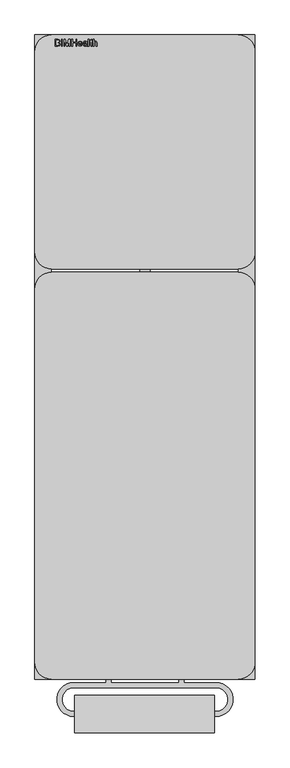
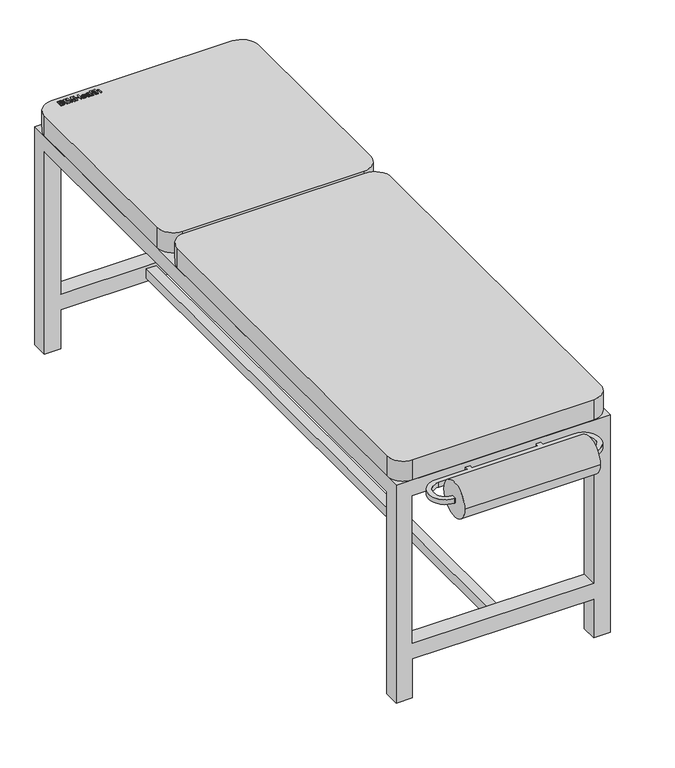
"""IFC4 building model written with IfcOpenShell, lengths in millimetres: furniture geometry, BIMHealth-Couch_Examination_Paper_Towel-LOD2A-v1 : BIMHealth-Couch_Examination_Paper_Towel-LOD2A-v1."""

from ifc_helpers import new_model, si_unit, point, frame, frame_2d, origin, place, context, project, spatial, polyline, circle_curve, trimmed, segment, composite_curve, outline, extrude, faceted_brep, source, transform, mapped, element, save


def furniture_7312193e(model_context):
    return source(origin(), model_context, "Body", "SolidModel", [
        extrude(outline(composite_curve([segment(trimmed(circle_curve(frame_2d((-2002.5, 677.0351989)), 55.0), [point((-2057.5, 677.0351989))], [point((-1947.5, 677.0351989))], False, "CARTESIAN"), True, "CONTINUOUS"), segment(trimmed(circle_curve(frame_2d((-2002.5, 677.0351989)), 55.0), [point((-1947.5, 677.0351989))], [point((-2057.5, 677.0351989))], False, "CARTESIAN"), True, "CONTINUOUS")], self_intersect=False)), frame((117.8018428, 0.0, 0.0), z_axis=(1.0, 0.0, 0.0), x_axis=(0.0, 1.0, 0.0)), (0.0, 0.0, 1.0), 411.6753536),
        extrude(outline(composite_curve([segment(polyline([(185.0, -2010.0), (115.0, -2010.0)]), True, "CONTINUOUS"), segment(trimmed(circle_curve(frame_2d((115.0, -1960.0)), 50.0), [point((115.0, -2010.0))], [point((115.0, -1910.0))], False, "CARTESIAN"), True, "CONTINUOUS"), segment(polyline([(115.0, -1910.0), (210.0, -1910.0), (210.0, -1900.0), (225.0, -1900.0), (225.0, -1910.0), (425.0, -1910.0), (425.0, -1900.0), (440.0, -1900.0), (440.0, -1910.0), (535.0, -1910.0)]), True, "CONTINUOUS"), segment(trimmed(circle_curve(frame_2d((535.0, -1960.0)), 50.0), [point((535.0, -1910.0))], [point((535.0, -2010.0))], False, "CARTESIAN"), True, "CONTINUOUS"), segment(polyline([(535.0, -2010.0), (465.0, -2010.0), (465.0, -1995.0), (535.0, -1995.0)]), True, "CONTINUOUS"), segment(trimmed(circle_curve(frame_2d((535.0, -1960.0)), 35.0), [point((535.0, -1995.0))], [point((535.0, -1925.0))], True, "CARTESIAN"), True, "CONTINUOUS"), segment(polyline([(535.0, -1925.0), (115.0, -1925.0)]), True, "CONTINUOUS"), segment(trimmed(circle_curve(frame_2d((115.0, -1960.0)), 35.0), [point((115.0, -1925.0))], [point((115.0, -1995.0))], True, "CARTESIAN"), True, "CONTINUOUS"), segment(polyline([(115.0, -1995.0), (185.0, -1995.0), (185.0, -2010.0)]), True, "CONTINUOUS")], self_intersect=False)), frame((0.0, 0.0, 669.5318641), z_axis=(0.0, 0.0, 1.0), x_axis=(1.0, 0.0, 0.0)), (0.0, 0.0, 1.0), 15.0066695),
        extrude(outline(polyline([(60.0220189, -32.8869719), (60.0220189, -13.1946642), (67.536442, -13.1946642), (71.2167304, -13.7739911), (73.3898073, -15.5552411), (74.175865, -18.0744719), (73.5148073, -20.3749527), (71.5172112, -22.1177411), (73.942692, -23.9542796), (74.7912496, -27.0167796), (74.2119227, -29.6634142), (72.7768266, -31.5480296), (70.6349996, -32.5480296), (67.4787496, -32.8869719), (60.0220189, -32.8869719)]), holes=[polyline([(62.4835573, -21.1946642), (66.9787496, -21.1946642), (69.6037496, -20.9831257), (71.1830766, -20.0720681), (71.7143266, -18.4687027), (71.2191343, -16.8629334), (69.800865, -15.9134142), (66.6374035, -15.6562027), (62.4835573, -15.6562027), (62.4835573, -21.1946642)]), polyline([(62.4835573, -30.4254334), (67.5316343, -30.4254334), (69.3585573, -30.3292796), (70.9042304, -29.7932219), (72.3297112, -27.0408181), (71.8585573, -25.1273565), (70.332115, -23.9855296), (67.2912496, -23.6562027), (62.4835573, -23.6562027), (62.4835573, -30.4254334)])]), frame((0.0, 0.0, 765.0), z_axis=(0.0, 0.0, 1.0), x_axis=(1.0, 0.0, 0.0)), (0.0, 0.0, 1.0), 2.0),
        extrude(outline(polyline([(78.4835573, -32.8869719), (78.4835573, -13.1946642), (80.9450958, -13.1946642), (80.9450958, -32.8869719), (78.4835573, -32.8869719)])), frame((0.0, 0.0, 765.0), z_axis=(0.0, 0.0, 1.0), x_axis=(1.0, 0.0, 0.0)), (0.0, 0.0, 1.0), 2.0),
        extrude(outline(polyline([(85.8681727, -32.8869719), (85.8681727, -13.1946642), (90.0893266, -13.1946642), (94.1277881, -27.0744719), (94.9450958, -29.9735104), (95.8249035, -26.8340873), (99.786442, -13.1946642), (104.0220189, -13.1946642), (104.0220189, -32.8869719), (101.5604804, -32.8869719), (101.5604804, -15.6562027), (96.613365, -32.8869719), (93.2816343, -32.8869719), (88.3297112, -15.6562027), (88.3297112, -32.8869719), (85.8681727, -32.8869719)])), frame((0.0, 0.0, 765.0), z_axis=(0.0, 0.0, 1.0), x_axis=(1.0, 0.0, 0.0)), (0.0, 0.0, 1.0), 2.0),
        extrude(outline(polyline([(108.3297112, -32.8869719), (108.3297112, -13.1946642), (110.7912496, -13.1946642), (110.7912496, -21.1946642), (121.2527881, -21.1946642), (121.2527881, -13.1946642), (123.7143266, -13.1946642), (123.7143266, -32.8869719), (121.2527881, -32.8869719), (121.2527881, -23.6562027), (110.7912496, -23.6562027), (110.7912496, -32.8869719), (108.3297112, -32.8869719)])), frame((0.0, 0.0, 765.0), z_axis=(0.0, 0.0, 1.0), x_axis=(1.0, 0.0, 0.0)), (0.0, 0.0, 1.0), 2.0),
        extrude(outline(polyline([(137.8393266, -28.5792796), (140.2527881, -28.8869719), (137.9955766, -32.0648565), (133.7912496, -33.1946642), (128.6806727, -31.245145), (126.7912496, -25.776395), (128.6999035, -20.1273565), (133.6518266, -18.1177411), (138.4619227, -20.1225488), (140.3297112, -25.7619719), (129.2527881, -26.4254334), (130.6686535, -29.6225488), (133.8393266, -30.7331257), (136.2527881, -30.2187027), (137.8393266, -28.5792796)]), holes=[polyline([(129.2527881, -23.963895), (137.8681727, -23.963895), (136.8825958, -21.7331257), (133.6422112, -20.5792796), (130.6109612, -21.4999527), (129.2527881, -23.963895)])]), frame((0.0, 0.0, 765.0), z_axis=(0.0, 0.0, 1.0), x_axis=(1.0, 0.0, 0.0)), (0.0, 0.0, 1.0), 2.0),
        extrude(outline(polyline([(152.0220189, -31.0408181), (149.6349996, -32.7090873), (146.9979804, -33.1946642), (143.4234612, -32.026395), (142.175865, -29.0408181), (142.6470189, -27.0937027), (143.8849996, -25.6802411), (145.6085573, -24.8725488), (147.738365, -24.5023565), (152.0075958, -23.6562027), (151.3441343, -21.2908181), (148.6229804, -20.5792796), (146.1325958, -21.0528373), (144.9450958, -22.7331257), (142.4835573, -22.4254334), (143.5484612, -20.0215873), (145.692692, -18.6129334), (148.9402881, -18.1177411), (151.9234612, -18.5552411), (153.6085573, -19.6537988), (154.363365, -21.3244719), (154.4835573, -23.4783181), (154.4835573, -26.5408181), (154.6085573, -30.8172604), (155.098942, -32.8869719), (152.6374035, -32.8869719), (152.0220189, -31.0408181)]), holes=[polyline([(152.0148073, -26.4662988), (148.050865, -26.8725488), (145.9330766, -27.2715873), (147.5220189, -30.7331257), (150.0124035, -30.1441834), (151.6181727, -28.7187027), (152.0148073, -26.4662988)])]), frame((0.0, 0.0, 765.0), z_axis=(0.0, 0.0, 1.0), x_axis=(1.0, 0.0, 0.0)), (0.0, 0.0, 1.0), 2.0),
        extrude(outline(polyline([(157.8681727, -32.8869719), (157.8681727, -13.1946642), (160.3297112, -13.1946642), (160.3297112, -32.8869719), (157.8681727, -32.8869719)])), frame((0.0, 0.0, 765.0), z_axis=(0.0, 0.0, 1.0), x_axis=(1.0, 0.0, 0.0)), (0.0, 0.0, 1.0), 2.0),
        extrude(outline(polyline([(168.0220189, -29.8412988), (169.5604804, -32.9590873), (167.7191343, -33.1946642), (165.6566343, -32.7860104), (164.3297112, -28.9206257), (164.3297112, -20.8869719), (162.4835573, -20.8869719), (162.4835573, -18.4254334), (164.3297112, -18.4254334), (164.3297112, -14.9110104), (166.7912496, -13.463895), (166.7912496, -18.4254334), (169.2527881, -18.4254334), (169.2527881, -20.8869719), (166.7912496, -20.8869719), (168.0220189, -29.8412988)])), frame((0.0, 0.0, 765.0), z_axis=(0.0, 0.0, 1.0), x_axis=(1.0, 0.0, 0.0)), (0.0, 0.0, 1.0), 2.0),
        extrude(outline(polyline([(171.7143266, -32.8869719), (171.7143266, -13.1946642), (174.175865, -13.1946642), (174.175865, -20.4350488), (178.4595189, -18.1177411), (181.223942, -18.7499527), (182.9018266, -20.4975488), (183.4066343, -23.7331257), (183.4066343, -32.8869719), (180.9450958, -32.8869719), (180.9450958, -23.9879334), (180.161442, -21.3917796), (177.9402881, -20.5792796), (175.9234612, -21.1273565), (174.5773073, -22.6129334), (174.175865, -25.2042796), (174.175865, -32.8869719), (171.7143266, -32.8869719)])), frame((0.0, 0.0, 765.0), z_axis=(0.0, 0.0, 1.0), x_axis=(1.0, 0.0, 0.0)), (0.0, 0.0, 1.0), 2.0),
        faceted_brep([(0.0, 0.0, 0.0), (50.0, 0.0, 0.0), (50.0, -50.0, 0.0), (0.0, -50.0, 0.0), (0.0, 0.0, 700.0), (650.0, 0.0, 700.0), (650.0, 0.0, 0.0), (600.0, 0.0, 0.0), (600.0, 0.0, 125.0), (50.0, 0.0, 125.0), (600.0, 0.0, 650.0), (50.0, 0.0, 650.0), (50.0, 0.0, 175.0), (600.0, 0.0, 175.0), (50.0, -50.0, 125.0), (50.0, -50.0, 650.0), (50.0, -50.0, 175.0), (600.0, -50.0, 125.0), (600.0, -50.0, 0.0), (650.0, -50.0, 0.0), (650.0, -50.0, 650.0), (600.0, -50.0, 650.0), (600.0, -50.0, 175.0), (0.0, -50.0, 650.0), (310.0, -50.0, 165.0), (340.0, -50.0, 165.0), (340.0, -50.0, 135.0), (310.0, -50.0, 135.0), (0.0, -1850.0, 650.0), (0.0, -1850.0, 0.0), (0.0, -1900.0, 0.0), (0.0, -1900.0, 700.0), (650.0, -1900.0, 700.0), (50.0, -50.0, 700.0), (600.0, -50.0, 700.0), (600.0, -1850.0, 700.0), (50.0, -1850.0, 700.0), (50.0, -1850.0, 650.0), (600.0, -1850.0, 650.0), (600.0, -1900.0, 650.0), (50.0, -1900.0, 650.0), (650.0, -1850.0, 650.0), (650.0, -1900.0, 0.0), (650.0, -1850.0, 0.0), (50.0, -1900.0, 0.0), (50.0, -1900.0, 125.0), (600.0, -1900.0, 125.0), (600.0, -1900.0, 0.0), (600.0, -1900.0, 175.0), (50.0, -1900.0, 175.0), (310.0, -1850.0, 165.0), (340.0, -1850.0, 165.0), (340.0, -1850.0, 135.0), (310.0, -1850.0, 135.0), (600.0, -1850.0, 175.0), (50.0, -1850.0, 175.0), (50.0, -1850.0, 125.0), (600.0, -1850.0, 125.0), (600.0, -1850.0, 0.0), (50.0, -1850.0, 0.0)], [[[0, 1, 2, 3]], [[1, 0, 4, 5, 6, 7, 8, 9], [10, 11, 12, 13]], [[2, 1, 9, 14]], [[11, 15, 16, 12]], [[3, 2, 14, 17, 18, 19, 20, 21, 22, 16, 15, 23], [24, 25, 26, 27]], [[0, 3, 23, 28, 29, 30, 31, 4]], [[4, 31, 32, 5], [33, 34, 35, 36]], [[15, 37, 28, 23]], [[37, 38, 39, 40]], [[38, 21, 20, 41]], [[21, 15, 11, 10]], [[5, 32, 42, 43, 41, 20, 19, 6]], [[32, 31, 30, 44, 45, 46, 47, 42], [48, 49, 40, 39]], [[34, 33, 15, 21]], [[35, 34, 21, 38]], [[36, 35, 38, 37]], [[33, 36, 37, 15]], [[7, 6, 19, 18]], [[21, 10, 13, 22]], [[7, 18, 17, 8]], [[16, 22, 13, 12]], [[9, 8, 17, 14]], [[24, 50, 51, 25]], [[26, 52, 53, 27]], [[25, 51, 52, 26]], [[50, 24, 27, 53]], [[49, 48, 54, 55]], [[56, 57, 46, 45]], [[55, 54, 38, 41, 43, 58, 57, 56, 59, 29, 28, 37], [51, 50, 53, 52]], [[58, 43, 42, 47]], [[48, 39, 38, 54]], [[58, 47, 46, 57]], [[29, 59, 44, 30]], [[40, 49, 55, 37]], [[44, 59, 56, 45]]]),
        extrude(outline(composite_curve([segment(trimmed(circle_curve(frame_2d((600.0, -50.0)), 50.0), [point((600.0, 0.0))], [point((650.0, -50.0))], False, "CARTESIAN"), True, "CONTINUOUS"), segment(polyline([(650.0, -50.0), (650.0, -640.0)]), True, "CONTINUOUS"), segment(trimmed(circle_curve(frame_2d((600.0, -640.0)), 50.0), [point((650.0, -640.0))], [point((600.0, -690.0))], False, "CARTESIAN"), True, "CONTINUOUS"), segment(polyline([(600.0, -690.0), (50.0, -690.0)]), True, "CONTINUOUS"), segment(trimmed(circle_curve(frame_2d((50.0, -640.0)), 50.0), [point((50.0, -690.0))], [point((0.0, -640.0))], False, "CARTESIAN"), True, "CONTINUOUS"), segment(polyline([(0.0, -640.0), (0.0, -50.0)]), True, "CONTINUOUS"), segment(trimmed(circle_curve(frame_2d((50.0, -50.0)), 50.0), [point((0.0, -50.0))], [point((50.0, 0.0))], False, "CARTESIAN"), True, "CONTINUOUS"), segment(polyline([(50.0, 0.0), (600.0, 0.0)]), True, "CONTINUOUS")], self_intersect=False)), frame((0.0, 0.0, 700.0), z_axis=(0.0, 0.0, 1.0), x_axis=(1.0, 0.0, 0.0)), (0.0, 0.0, 1.0), 65.0),
        extrude(outline(composite_curve([segment(trimmed(circle_curve(frame_2d((600.0, -750.0)), 50.0), [point((600.0, -700.0))], [point((650.0, -750.0))], False, "CARTESIAN"), True, "CONTINUOUS"), segment(polyline([(650.0, -750.0), (650.0, -1850.0)]), True, "CONTINUOUS"), segment(trimmed(circle_curve(frame_2d((600.0, -1850.0)), 50.0), [point((650.0, -1850.0))], [point((600.0, -1900.0))], False, "CARTESIAN"), True, "CONTINUOUS"), segment(polyline([(600.0, -1900.0), (50.0, -1900.0)]), True, "CONTINUOUS"), segment(trimmed(circle_curve(frame_2d((50.0, -1850.0)), 50.0), [point((50.0, -1900.0))], [point((0.0, -1850.0))], False, "CARTESIAN"), True, "CONTINUOUS"), segment(polyline([(0.0, -1850.0), (0.0, -750.0)]), True, "CONTINUOUS"), segment(trimmed(circle_curve(frame_2d((50.0, -750.0)), 50.0), [point((0.0, -750.0))], [point((50.0, -700.0))], False, "CARTESIAN"), True, "CONTINUOUS"), segment(polyline([(50.0, -700.0), (600.0, -700.0)]), True, "CONTINUOUS")], self_intersect=False)), frame((0.0, 0.0, 700.0), z_axis=(0.0, 0.0, 1.0), x_axis=(1.0, 0.0, 0.0)), (0.0, 0.0, 1.0), 65.0),
    ])


if __name__ == "__main__":
    model = new_model("IFC4")
    model_context = context("Model", 3, world=origin())
    ifc_project = project(units=[si_unit("LENGTHUNIT", "METRE", prefix="MILLI")], contexts=[model_context])
    site = spatial("IfcSite", under=ifc_project)
    building = spatial("IfcBuilding", under=site)
    placement = place(None, origin())
    furniture_shape = furniture_7312193e(model_context)
    element("IfcFurniture", 1, ObjectType="BIMHealth-Couch_Examination_Paper_Towel-LOD2A-v1 : BIMHealth-Couch_Examination_Paper_Towel-LOD2A-v1", at=placement, inside=building, context=model_context, shape_type="MappedRepresentation", body=[
        mapped(furniture_shape, transform((0.0, 0.0, 0.0), x_axis=(1.0, 0.0, 0.0), y_axis=(0.0, 1.0, 0.0), z_axis=(0.0, 0.0, 1.0))),
    ])
    save(model, "model.ifc")
